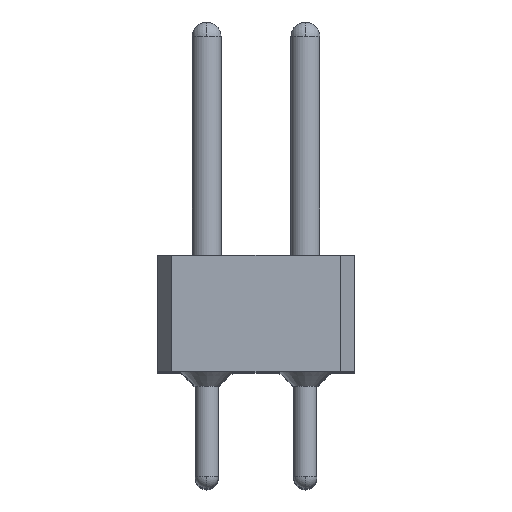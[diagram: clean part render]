
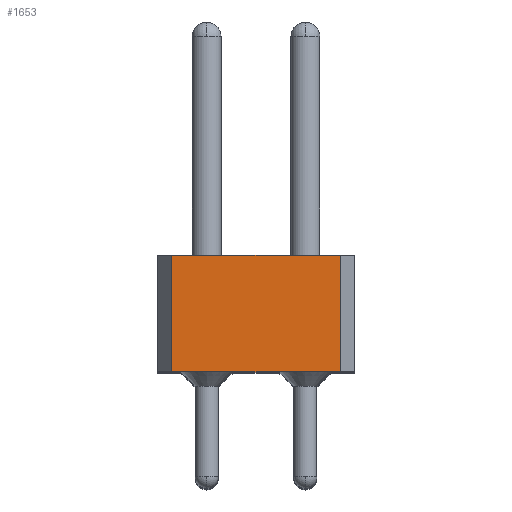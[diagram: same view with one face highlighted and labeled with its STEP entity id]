
A CAD part, top view. The second image highlights one B-rep face of the part: STEP entity #1653.
In plain terms, the highlighted planar face has unit normal (0, 0, 1).
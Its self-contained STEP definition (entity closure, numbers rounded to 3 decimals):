
#1127=FACE_OUTER_BOUND('',#3619,.T.);
#1653=ADVANCED_FACE('',(#1127),#1873,.F.);
#1873=PLANE('',#9266);
#2240=LINE('',#14600,#2636);
#2252=LINE('',#14632,#2648);
#2259=LINE('',#14647,#2655);
#2260=LINE('',#14649,#2656);
#2636=VECTOR('',#11687,1.);
#2648=VECTOR('',#11707,1.);
#2655=VECTOR('',#11722,1.);
#2656=VECTOR('',#11725,1.);
#3619=EDGE_LOOP('',(#5674,#5675,#5676,#5677));
#5674=ORIENTED_EDGE('',*,*,#7615,.T.);
#5675=ORIENTED_EDGE('',*,*,#7624,.F.);
#5676=ORIENTED_EDGE('',*,*,#7600,.F.);
#5677=ORIENTED_EDGE('',*,*,#7623,.T.);
#6542=VERTEX_POINT('',#14601);
#6543=VERTEX_POINT('',#14602);
#6557=VERTEX_POINT('',#14631);
#6558=VERTEX_POINT('',#14633);
#7600=EDGE_CURVE('',#6542,#6543,#2240,.T.);
#7615=EDGE_CURVE('',#6558,#6557,#2252,.T.);
#7623=EDGE_CURVE('',#6542,#6558,#2259,.T.);
#7624=EDGE_CURVE('',#6543,#6557,#2260,.T.);
#9266=AXIS2_PLACEMENT_3D('',#14650,#11726,#11727);
#11687=DIRECTION('',(1.,0.,0.));
#11707=DIRECTION('',(1.,0.,0.));
#11722=DIRECTION('',(0.,-1.,0.));
#11725=DIRECTION('',(0.,-1.,0.));
#11726=DIRECTION('',(0.,0.,-1.));
#11727=DIRECTION('',(0.,1.,0.));
#14600=CARTESIAN_POINT('',(-1.27,4.9,31.75));
#14601=CARTESIAN_POINT('',(-0.9,4.9,31.75));
#14602=CARTESIAN_POINT('',(3.44,4.9,31.75));
#14631=CARTESIAN_POINT('',(3.44,1.9,31.75));
#14632=CARTESIAN_POINT('',(3.81,1.9,31.75));
#14633=CARTESIAN_POINT('',(-0.9,1.9,31.75));
#14647=CARTESIAN_POINT('',(-0.9,3.8,31.75));
#14649=CARTESIAN_POINT('',(3.44,3.8,31.75));
#14650=CARTESIAN_POINT('',(1.64,3.8,31.75));
